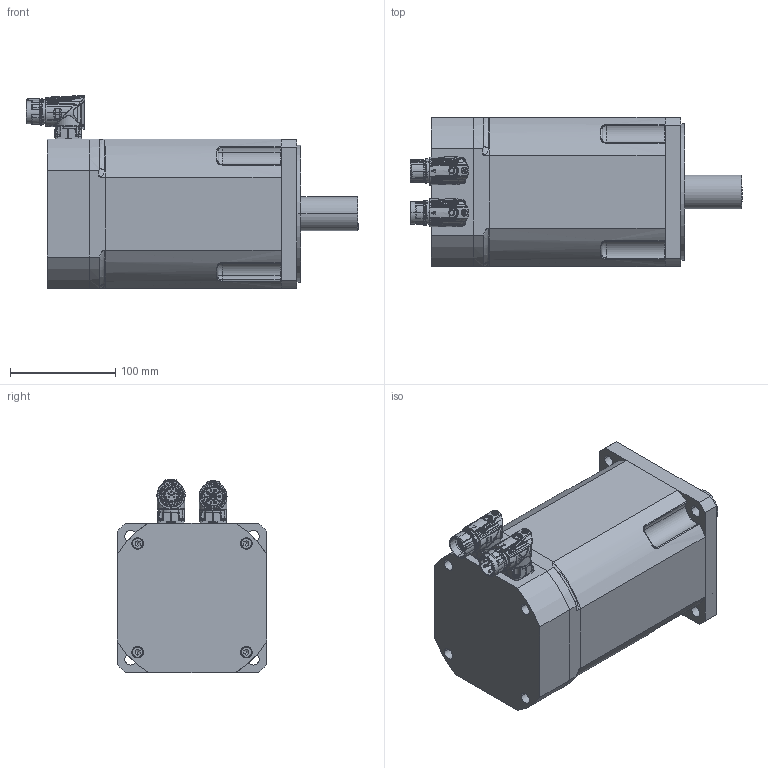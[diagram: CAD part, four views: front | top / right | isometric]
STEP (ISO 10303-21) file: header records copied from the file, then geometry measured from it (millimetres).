
FILE_DESCRIPTION(('CATIA V5 STEP Exchange'),'2;1');
FILE_NAME('C:\Documents and Settings\max\Documenti\sangallimotori\3d step\tg5\motore_DSM5_52.stp','2010-12-12T18:49:16+00:00',('none'),('none'),'CATIA Version 5 Release 10 (IN-8)','CATIA V5 STEP AP203',' none');
FILE_SCHEMA(('CONFIG_CONTROL_DESIGN'));
Assembly tree (27 placements, depth 0):
Bounding box: 315.31 x 142 x 183.43 mm (x, y, z)
Volume: 4364279.4 mm3; surface area: 316384.2 mm2
Topology: 23 solids, 28 shells, 4112 faces, 13934 edges, 9842 vertices
Faces by surface type: cylinder 1486, bspline 1334, plane 590, torus 360, cone 233, sphere 109
Entity records: 255963 total; most frequent: CARTESIAN_POINT 165446, ORIENTED_EDGE 25592, EDGE_CURVE 12853, VERTEX_POINT 9238, DIRECTION 8836, B_SPLINE_CURVE_WITH_KNOTS 7940, AXIS2_PLACEMENT_3D 4425, EDGE_LOOP 3856
